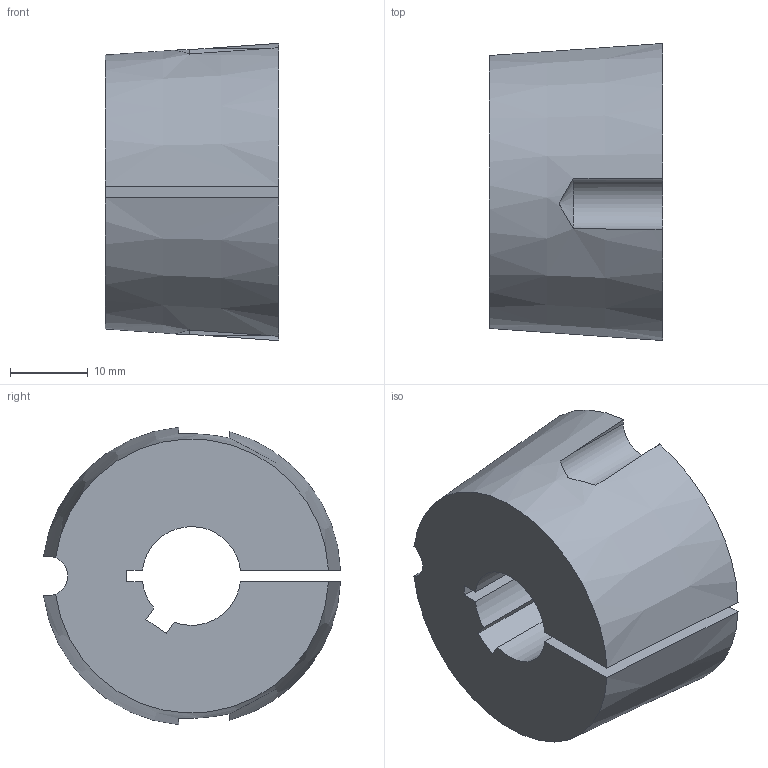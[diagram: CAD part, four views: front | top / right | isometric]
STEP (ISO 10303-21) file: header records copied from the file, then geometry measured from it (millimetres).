
FILE_DESCRIPTION( ( '' ), '1' );
FILE_NAME( 'C:/Users/StangenbergN/Desktop/06.02.2019_steps/6225021270.stp', '2019-02-06T19:53:56', ( '' ), ( '' ), ' ', ' ', ' ' );
FILE_SCHEMA( ( 'CONFIG_CONTROL_DESIGN' ) );
Length unit declared in the file: millimetre
Products named in the file (1): 1
Bounding box: 22.3 x 38.22 x 38.26 mm (x, y, z)
Volume: 19716.5 mm3; surface area: 6052.5 mm2
Topology: 1 solids, 1 shells, 26 faces, 72 edges, 48 vertices
Faces by surface type: cylinder 12, plane 10, cone 4
Entity records: 968 total; most frequent: CARTESIAN_POINT 259, ORIENTED_EDGE 144, DIRECTION 138, EDGE_CURVE 72, AXIS2_PLACEMENT_3D 53, VERTEX_POINT 48, LINE 32, VECTOR 32
